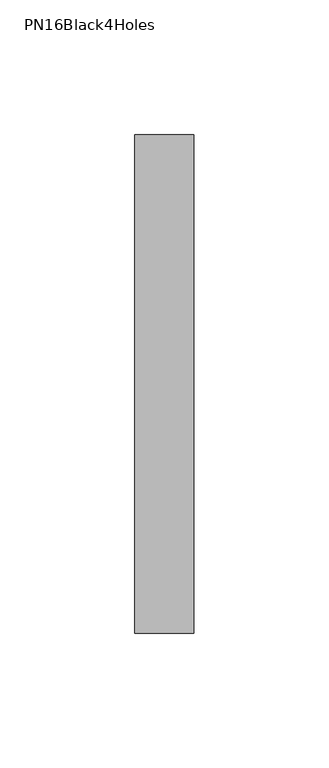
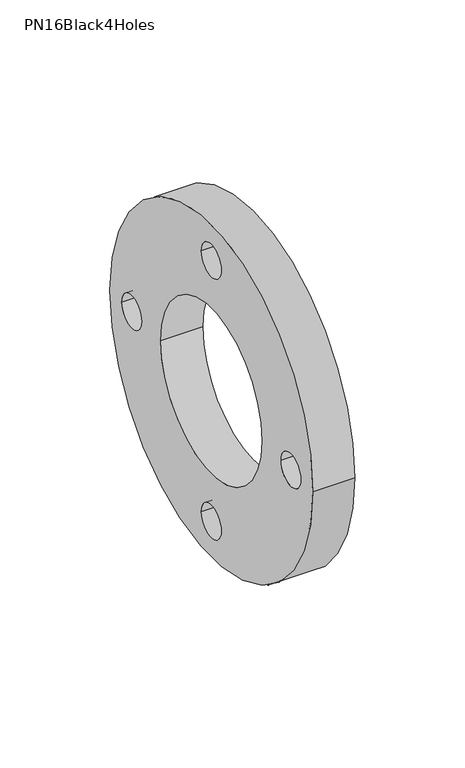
"""IFC4 building model written with IfcOpenShell, lengths in millimetres: pipe fitting geometry, PipeAccessory_GirpiHTA_CPVC_BackingRingsPN16Black4HolesFlangeAndGasket : PN16Black4Holes."""

from ifc_helpers import new_model, si_unit, point, frame, frame_2d, origin, origin_2d, place, context, project, spatial, circle_curve, trimmed, segment, composite_curve, outline, extrude, source, transform, mapped, element, save


def pn16black4holes_ab1df13b(model_context):
    return source(origin(), model_context, "Body", "SweptSolid", [
        extrude(outline(composite_curve([segment(trimmed(circle_curve(origin_2d(), 92.5), [point((-92.5, 0.0))], [point((92.5, 0.0))], False, "CARTESIAN"), True, "CONTINUOUS"), segment(trimmed(circle_curve(origin_2d(), 92.5), [point((92.5, 0.0))], [point((-92.5, 0.0))], False, "CARTESIAN"), True, "CONTINUOUS")], self_intersect=False), holes=[composite_curve([segment(trimmed(circle_curve(origin_2d(), 46.0), [point((-46.0, 0.0))], [point((46.0, 0.0))], True, "CARTESIAN"), True, "CONTINUOUS"), segment(trimmed(circle_curve(origin_2d(), 46.0), [point((46.0, 0.0))], [point((-46.0, 0.0))], True, "CARTESIAN"), True, "CONTINUOUS")], self_intersect=False), composite_curve([segment(trimmed(circle_curve(frame_2d((0.0, 72.5)), 9.0), [point((-9.0, 72.5))], [point((9.0, 72.5))], True, "CARTESIAN"), True, "CONTINUOUS"), segment(trimmed(circle_curve(frame_2d((0.0, 72.5)), 9.0), [point((9.0, 72.5))], [point((-9.0, 72.5))], True, "CARTESIAN"), True, "CONTINUOUS")], self_intersect=False), composite_curve([segment(trimmed(circle_curve(frame_2d((72.5, 0.0)), 9.0), [point((63.5, 0.0))], [point((81.5, 0.0))], True, "CARTESIAN"), True, "CONTINUOUS"), segment(trimmed(circle_curve(frame_2d((72.5, 0.0)), 9.0), [point((81.5, 0.0))], [point((63.5, 0.0))], True, "CARTESIAN"), True, "CONTINUOUS")], self_intersect=False), composite_curve([segment(trimmed(circle_curve(frame_2d((0.0, -72.5)), 9.0), [point((-9.0, -72.5))], [point((9.0, -72.5))], True, "CARTESIAN"), True, "CONTINUOUS"), segment(trimmed(circle_curve(frame_2d((0.0, -72.5)), 9.0), [point((9.0, -72.5))], [point((-9.0, -72.5))], True, "CARTESIAN"), True, "CONTINUOUS")], self_intersect=False), composite_curve([segment(trimmed(circle_curve(frame_2d((-72.5, 0.0)), 9.0), [point((-81.5, 0.0))], [point((-63.5, 0.0))], True, "CARTESIAN"), True, "CONTINUOUS"), segment(trimmed(circle_curve(frame_2d((-72.5, 0.0)), 9.0), [point((-63.5, 0.0))], [point((-81.5, 0.0))], True, "CARTESIAN"), True, "CONTINUOUS")], self_intersect=False)]), frame((-11.0, 0.0, 0.0), z_axis=(1.0, 0.0, 0.0), x_axis=(0.0, 1.0, 0.0)), (0.0, 0.0, 1.0), 22.0),
    ])


if __name__ == "__main__":
    model = new_model("IFC4")
    model_context = context("Model", 3, world=origin())
    ifc_project = project(units=[si_unit("LENGTHUNIT", "METRE", prefix="MILLI")], contexts=[model_context])
    site = spatial("IfcSite", under=ifc_project)
    building = spatial("IfcBuilding", under=site)
    placement = place(None, origin())
    pn16black4holes_shape = pn16black4holes_ab1df13b(model_context)
    element("IfcPipeFitting", 1, ObjectType="PipeAccessory_GirpiHTA_CPVC_BackingRingsPN16Black4HolesFlangeAndGasket : PN16Black4Holes", at=placement, inside=building, context=model_context, shape_type="MappedRepresentation", body=[
        mapped(pn16black4holes_shape, transform((0.0, 0.0, 0.0), x_axis=(1.0, 0.0, 0.0), y_axis=(0.0, 1.0, 0.0), z_axis=(0.0, 0.0, 1.0))),
    ])
    save(model, "model.ifc")
